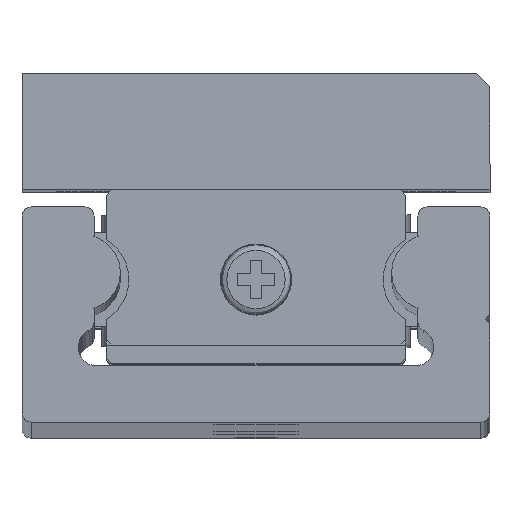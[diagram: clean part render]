
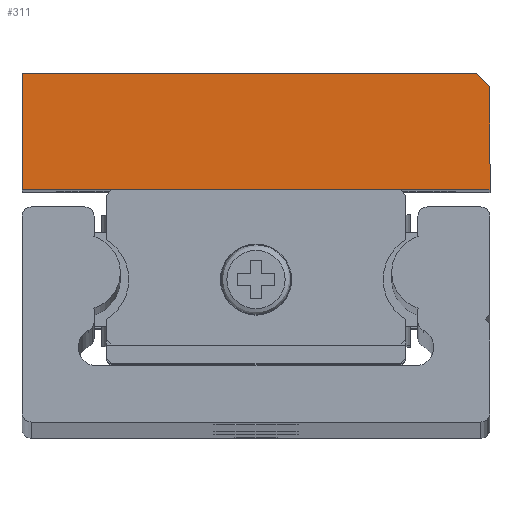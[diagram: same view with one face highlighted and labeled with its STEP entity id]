
A CAD part, top view. The second image highlights one B-rep face of the part: STEP entity #311.
In plain terms, the highlighted planar face has unit normal (0, 0, 1).
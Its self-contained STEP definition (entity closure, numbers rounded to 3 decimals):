
#5 = CARTESIAN_POINT ( 'NONE',  ( 11.4, 11.4, 90. ) ) ;
#311 = ADVANCED_FACE ( 'NONE', ( #17025 ), #18686, .T. ) ;
#324 = VECTOR ( 'NONE', #19122, 1000. ) ;
#1511 = EDGE_CURVE ( 'NONE', #8440, #2209, #14884, .T. ) ;
#1723 = EDGE_CURVE ( 'NONE', #2209, #18653, #17253, .T. ) ;
#2209 = VERTEX_POINT ( 'NONE', #5140 ) ;
#2794 = EDGE_CURVE ( 'NONE', #14091, #8440, #2935, .T. ) ;
#2935 = LINE ( 'NONE', #8980, #12043 ) ;
#3113 = CARTESIAN_POINT ( 'NONE',  ( 11.8, 11., 90. ) ) ;
#3622 = DIRECTION ( 'NONE',  ( 0., 0., 1. ) ) ;
#4421 = CARTESIAN_POINT ( 'NONE',  ( -12.5, 4.8, 90. ) ) ;
#5140 = CARTESIAN_POINT ( 'NONE',  ( 12.5, 4.8, 90. ) ) ;
#5456 = CARTESIAN_POINT ( 'NONE',  ( 12.5, 10.3, 90. ) ) ;
#5998 = DIRECTION ( 'NONE',  ( 0., -1., 0. ) ) ;
#6142 = ORIENTED_EDGE ( 'NONE', *, *, #1723, .T. ) ;
#6274 = CARTESIAN_POINT ( 'NONE',  ( -12.5, 4.8, 90. ) ) ;
#6361 = CARTESIAN_POINT ( 'NONE',  ( -12.5, 11., 90. ) ) ;
#6593 = DIRECTION ( 'NONE',  ( 1., 0., 0. ) ) ;
#7714 = LINE ( 'NONE', #13699, #16040 ) ;
#8197 = VECTOR ( 'NONE', #16593, 1000. ) ;
#8440 = VERTEX_POINT ( 'NONE', #6274 ) ;
#8980 = CARTESIAN_POINT ( 'NONE',  ( -12.5, 11., 90. ) ) ;
#10581 = LINE ( 'NONE', #5, #8197 ) ;
#11058 = VECTOR ( 'NONE', #17039, 1000. ) ;
#11276 = EDGE_CURVE ( 'NONE', #18653, #13165, #10581, .T. ) ;
#11404 = ORIENTED_EDGE ( 'NONE', *, *, #11276, .T. ) ;
#11545 = EDGE_CURVE ( 'NONE', #13165, #14091, #7714, .T. ) ;
#11651 = AXIS2_PLACEMENT_3D ( 'NONE', #17449, #3622, #6593 ) ;
#12005 = EDGE_LOOP ( 'NONE', ( #6142, #11404, #13774, #18897, #17435 ) ) ;
#12043 = VECTOR ( 'NONE', #5998, 1000. ) ;
#13165 = VERTEX_POINT ( 'NONE', #3113 ) ;
#13699 = CARTESIAN_POINT ( 'NONE',  ( -12.5, 11., 90. ) ) ;
#13774 = ORIENTED_EDGE ( 'NONE', *, *, #11545, .T. ) ;
#14091 = VERTEX_POINT ( 'NONE', #6361 ) ;
#14884 = LINE ( 'NONE', #4421, #324 ) ;
#16040 = VECTOR ( 'NONE', #18246, 1000. ) ;
#16593 = DIRECTION ( 'NONE',  ( -0.707, 0.707, 0. ) ) ;
#17025 = FACE_OUTER_BOUND ( 'NONE', #12005, .T. ) ;
#17039 = DIRECTION ( 'NONE',  ( 0., 1., 0. ) ) ;
#17144 = CARTESIAN_POINT ( 'NONE',  ( 12.5, 11., 90. ) ) ;
#17253 = LINE ( 'NONE', #17144, #11058 ) ;
#17435 = ORIENTED_EDGE ( 'NONE', *, *, #1511, .T. ) ;
#17449 = CARTESIAN_POINT ( 'NONE',  ( 0., 0., 90. ) ) ;
#18246 = DIRECTION ( 'NONE',  ( -1., 0., 0. ) ) ;
#18653 = VERTEX_POINT ( 'NONE', #5456 ) ;
#18686 = PLANE ( 'NONE',  #11651 ) ;
#18897 = ORIENTED_EDGE ( 'NONE', *, *, #2794, .T. ) ;
#19122 = DIRECTION ( 'NONE',  ( 1., 0., 0. ) ) ;
